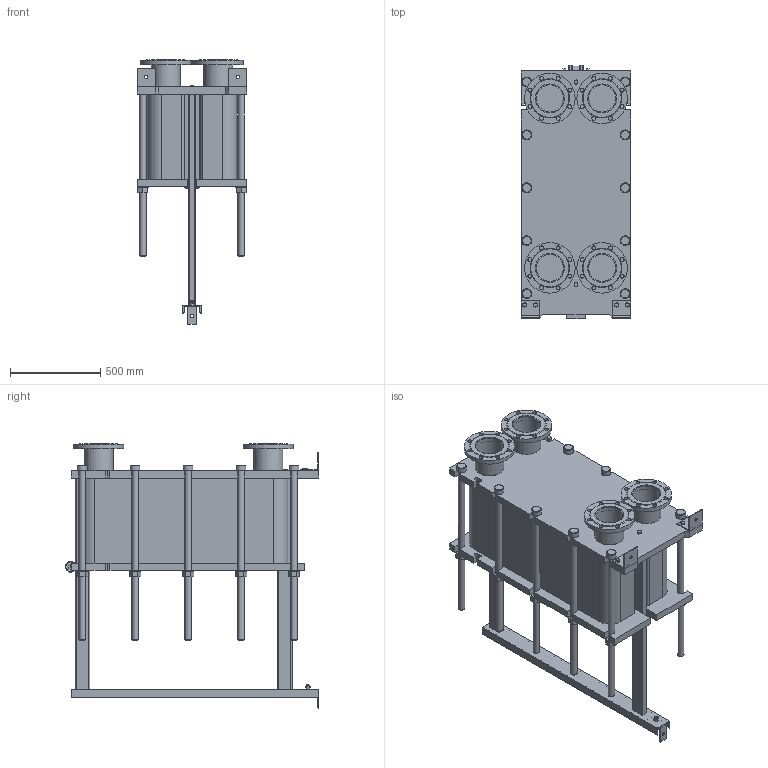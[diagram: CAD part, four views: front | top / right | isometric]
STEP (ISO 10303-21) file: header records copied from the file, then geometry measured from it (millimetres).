
FILE_DESCRIPTION(/* description */ (''),/* implementation_level */ '2;1');
FILE_NAME(/* name */ 'C:\Users\zhuro\Desktop\ENCO\TO\ЭН-041\ЭН-0,5-041-137-1.stp',/* time_stamp */ '2022-06-06T11:00:40+03:00',/* author */ ('zhuro'),/* organization */ (''),/* preprocessor_version */ 'ST-DEVELOPER v18.1',/* originating_system */ 'Autodesk Inventor 2022',/* authorisation */ '');
FILE_SCHEMA (('AUTOMOTIVE_DESIGN { 1 0 10303 214 3 1 1 }'));
Length unit declared in the file: millimetre
Products named in the file (1): ЭН-0,5-041-137-1
Bounding box: 610 x 1406.5 x 1467.5 mm (x, y, z)
Volume: 348909216.4 mm3; surface area: 9840330.8 mm2
Topology: 52 solids, 52 shells, 711 faces, 1696 edges, 1094 vertices
Faces by surface type: plane 487, cylinder 177, cone 41, torus 6
Full cylindrical faces by diameter (mm): 8 x4, 10 x2, 16 x8, 18 x3, 22 x32, 36 x24, 50 x1, 54 x10, 60 x12, 151 x4, 161 x8, 280 x4
Entity records: 22667 total; most frequent: CARTESIAN_POINT 5230, DIRECTION 3644, ORIENTED_EDGE 3392, EDGE_CURVE 1696, AXIS2_PLACEMENT_3D 1272, LINE 1100, VECTOR 1100, VERTEX_POINT 1094
